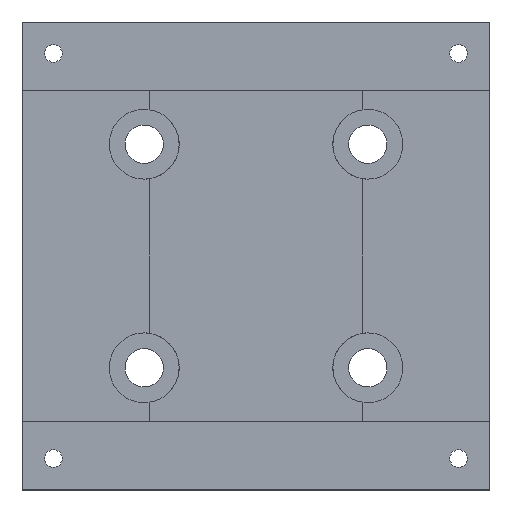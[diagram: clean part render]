
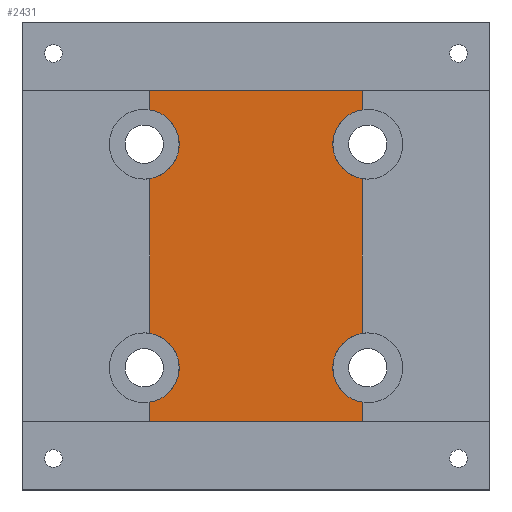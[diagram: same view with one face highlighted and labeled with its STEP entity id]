
A CAD part, front view. The second image highlights one B-rep face of the part: STEP entity #2431.
In plain terms, the highlighted planar face has unit normal (0, -1, 0).
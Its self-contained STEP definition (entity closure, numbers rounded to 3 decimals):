
#9 = VERTEX_POINT ( 'NONE', #125 ) ;
#26 = VERTEX_POINT ( 'NONE', #259 ) ;
#36 = VERTEX_POINT ( 'NONE', #300 ) ;
#38 = EDGE_CURVE ( 'NONE', #26, #2689, #312, .T. ) ;
#61 = VERTEX_POINT ( 'NONE', #409 ) ;
#125 = CARTESIAN_POINT ( 'NONE',  ( -15.22, 1.6, -11.061 ) ) ;
#259 = CARTESIAN_POINT ( 'NONE',  ( 15.22, 1.6, 33.5 ) ) ;
#300 = CARTESIAN_POINT ( 'NONE',  ( -15.22, 1.6, -20.939 ) ) ;
#312 = LINE ( 'NONE', #313, #314 ) ;
#313 = CARTESIAN_POINT ( 'NONE',  ( 15.22, 1.6, 33.5 ) ) ;
#314 = VECTOR ( 'NONE', #319, 1000. ) ;
#319 = DIRECTION ( 'NONE',  ( 0., 0., -1. ) ) ;
#358 = CIRCLE ( 'NONE', #359, 5. ) ;
#359 = AXIS2_PLACEMENT_3D ( 'NONE', #360, #361, #362 ) ;
#360 = CARTESIAN_POINT ( 'NONE',  ( -16., 1.6, -16. ) ) ;
#361 = DIRECTION ( 'NONE',  ( 0., 1., 0. ) ) ;
#362 = DIRECTION ( 'NONE',  ( -1., 0., 0. ) ) ;
#409 = CARTESIAN_POINT ( 'NONE',  ( -15.22, 1.6, 33.5 ) ) ;
#438 = CARTESIAN_POINT ( 'NONE',  ( 15.22, 1.6, -33.5 ) ) ;
#543 = LINE ( 'NONE', #544, #545 ) ;
#544 = CARTESIAN_POINT ( 'NONE',  ( 15.22, 1.6, 33.5 ) ) ;
#545 = VECTOR ( 'NONE', #546, 1000. ) ;
#546 = DIRECTION ( 'NONE',  ( 0., 0., -1. ) ) ;
#655 = LINE ( 'NONE', #656, #657 ) ;
#656 = CARTESIAN_POINT ( 'NONE',  ( -15.22, 1.6, 33.5 ) ) ;
#657 = VECTOR ( 'NONE', #658, 1000. ) ;
#658 = DIRECTION ( 'NONE',  ( 1., 0., 0. ) ) ;
#1027 = CARTESIAN_POINT ( 'NONE',  ( 15.22, 1.6, -11.061 ) ) ;
#1033 = LINE ( 'NONE', #1034, #1036 ) ;
#1034 = CARTESIAN_POINT ( 'NONE',  ( -15.22, 1.6, 33.5 ) ) ;
#1036 = VECTOR ( 'NONE', #1037, 1000. ) ;
#1037 = DIRECTION ( 'NONE',  ( 0., 0., -1. ) ) ;
#1082 = CARTESIAN_POINT ( 'NONE',  ( -15.22, 1.6, -33.5 ) ) ;
#1094 = CARTESIAN_POINT ( 'NONE',  ( -15.22, 1.6, 20.939 ) ) ;
#1117 = FACE_OUTER_BOUND ( 'NONE', #2409, .T. ) ;
#1118 = PLANE ( 'NONE',  #1119 ) ;
#1119 = AXIS2_PLACEMENT_3D ( 'NONE', #1121, #1122, #1123 ) ;
#1121 = CARTESIAN_POINT ( 'NONE',  ( -15.22, 1.6, 33.5 ) ) ;
#1122 = DIRECTION ( 'NONE',  ( 0., 1., 0. ) ) ;
#1123 = DIRECTION ( 'NONE',  ( -1., 0., 0. ) ) ;
#1165 = CARTESIAN_POINT ( 'NONE',  ( 15.22, 1.6, 11.061 ) ) ;
#1184 = CARTESIAN_POINT ( 'NONE',  ( 15.22, 1.6, -20.939 ) ) ;
#1199 = CARTESIAN_POINT ( 'NONE',  ( 15.22, 1.6, 20.939 ) ) ;
#1248 = CIRCLE ( 'NONE', #1249, 5. ) ;
#1249 = AXIS2_PLACEMENT_3D ( 'NONE', #1250, #1251, #1252 ) ;
#1250 = CARTESIAN_POINT ( 'NONE',  ( 16., 1.6, 16. ) ) ;
#1251 = DIRECTION ( 'NONE',  ( 0., 1., 0. ) ) ;
#1252 = DIRECTION ( 'NONE',  ( -1., 0., 0. ) ) ;
#1355 = LINE ( 'NONE', #1356, #1357 ) ;
#1356 = CARTESIAN_POINT ( 'NONE',  ( 15.22, 1.6, 33.5 ) ) ;
#1357 = VECTOR ( 'NONE', #1358, 1000. ) ;
#1358 = DIRECTION ( 'NONE',  ( 0., 0., -1. ) ) ;
#1367 = CIRCLE ( 'NONE', #1368, 5. ) ;
#1368 = AXIS2_PLACEMENT_3D ( 'NONE', #1369, #1370, #1372 ) ;
#1369 = CARTESIAN_POINT ( 'NONE',  ( -16., 1.6, 16. ) ) ;
#1370 = DIRECTION ( 'NONE',  ( 0., 1., 0. ) ) ;
#1372 = DIRECTION ( 'NONE',  ( -1., 0., 0. ) ) ;
#1383 = CIRCLE ( 'NONE', #1384, 5. ) ;
#1384 = AXIS2_PLACEMENT_3D ( 'NONE', #1385, #1386, #1387 ) ;
#1385 = CARTESIAN_POINT ( 'NONE',  ( 16., 1.6, -16. ) ) ;
#1386 = DIRECTION ( 'NONE',  ( 0., 1., 0. ) ) ;
#1387 = DIRECTION ( 'NONE',  ( -1., 0., 0. ) ) ;
#1405 = EDGE_CURVE ( 'NONE', #2686, #2662, #1355, .T. ) ;
#1428 = LINE ( 'NONE', #1429, #1430 ) ;
#1429 = CARTESIAN_POINT ( 'NONE',  ( -15.22, 1.6, -33.5 ) ) ;
#1430 = VECTOR ( 'NONE', #1431, 1000. ) ;
#1431 = DIRECTION ( 'NONE',  ( 1., 0., 0. ) ) ;
#1478 = LINE ( 'NONE', #1479, #1480 ) ;
#1479 = CARTESIAN_POINT ( 'NONE',  ( -15.22, 1.6, 33.5 ) ) ;
#1480 = VECTOR ( 'NONE', #1481, 1000. ) ;
#1481 = DIRECTION ( 'NONE',  ( 0., 0., -1. ) ) ;
#1729 = EDGE_CURVE ( 'NONE', #61, #2676, #1478, .T. ) ;
#1806 = CARTESIAN_POINT ( 'NONE',  ( -15.22, 1.6, 11.061 ) ) ;
#1896 = LINE ( 'NONE', #1897, #1898 ) ;
#1897 = CARTESIAN_POINT ( 'NONE',  ( -15.22, 1.6, 33.5 ) ) ;
#1898 = VECTOR ( 'NONE', #1899, 1000. ) ;
#1899 = DIRECTION ( 'NONE',  ( 0., 0., -1. ) ) ;
#2065 = VERTEX_POINT ( 'NONE', #1806 ) ;
#2090 = EDGE_CURVE ( 'NONE', #2065, #9, #1896, .T. ) ;
#2111 = ORIENTED_EDGE ( 'NONE', *, *, #1405, .F. ) ;
#2158 = EDGE_CURVE ( 'NONE', #36, #2425, #1033, .T. ) ;
#2174 = ORIENTED_EDGE ( 'NONE', *, *, #2477, .T. ) ;
#2186 = EDGE_CURVE ( 'NONE', #2686, #2689, #1248, .T. ) ;
#2228 = ORIENTED_EDGE ( 'NONE', *, *, #2158, .T. ) ;
#2283 = EDGE_CURVE ( 'NONE', #9, #36, #358, .T. ) ;
#2300 = VERTEX_POINT ( 'NONE', #438 ) ;
#2327 = EDGE_CURVE ( 'NONE', #2438, #2300, #543, .T. ) ;
#2328 = ORIENTED_EDGE ( 'NONE', *, *, #2283, .T. ) ;
#2375 = ORIENTED_EDGE ( 'NONE', *, *, #2464, .T. ) ;
#2382 = ORIENTED_EDGE ( 'NONE', *, *, #2090, .T. ) ;
#2409 = EDGE_LOOP ( 'NONE', ( #2111, #2654, #2607, #2644, #2557, #2502, #2382, #2328, #2228, #2174, #2429, #2375 ) ) ;
#2425 = VERTEX_POINT ( 'NONE', #1082 ) ;
#2429 = ORIENTED_EDGE ( 'NONE', *, *, #2327, .F. ) ;
#2431 = ADVANCED_FACE ( 'NONE', ( #1117 ), #1118, .F. ) ;
#2438 = VERTEX_POINT ( 'NONE', #1184 ) ;
#2460 = EDGE_CURVE ( 'NONE', #2676, #2065, #1367, .T. ) ;
#2464 = EDGE_CURVE ( 'NONE', #2438, #2662, #1383, .T. ) ;
#2477 = EDGE_CURVE ( 'NONE', #2425, #2300, #1428, .T. ) ;
#2502 = ORIENTED_EDGE ( 'NONE', *, *, #2460, .T. ) ;
#2557 = ORIENTED_EDGE ( 'NONE', *, *, #1729, .T. ) ;
#2607 = ORIENTED_EDGE ( 'NONE', *, *, #38, .F. ) ;
#2608 = EDGE_CURVE ( 'NONE', #61, #26, #655, .T. ) ;
#2644 = ORIENTED_EDGE ( 'NONE', *, *, #2608, .F. ) ;
#2654 = ORIENTED_EDGE ( 'NONE', *, *, #2186, .T. ) ;
#2662 = VERTEX_POINT ( 'NONE', #1027 ) ;
#2676 = VERTEX_POINT ( 'NONE', #1094 ) ;
#2686 = VERTEX_POINT ( 'NONE', #1165 ) ;
#2689 = VERTEX_POINT ( 'NONE', #1199 ) ;
